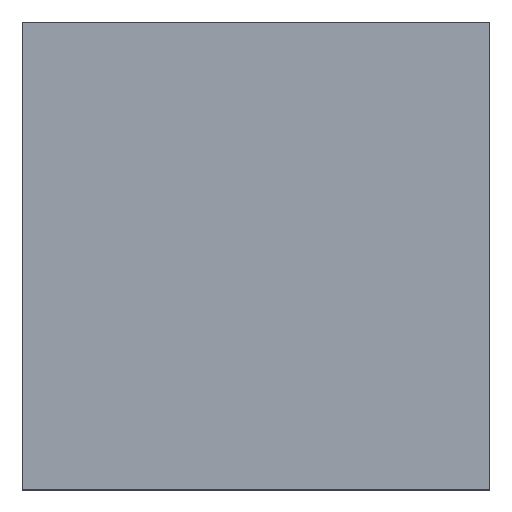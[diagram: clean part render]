
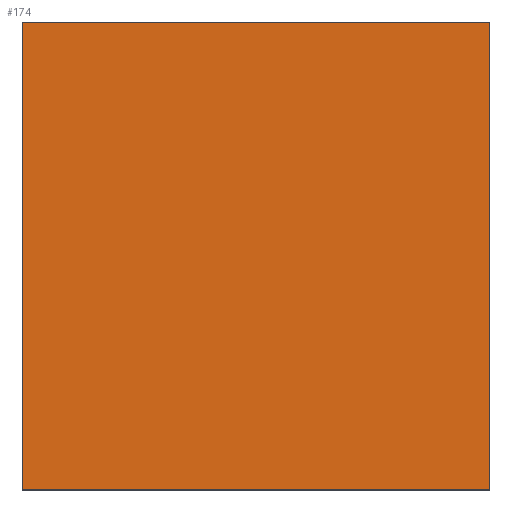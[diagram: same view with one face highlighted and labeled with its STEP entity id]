
A CAD part, top view. The second image highlights one B-rep face of the part: STEP entity #174.
In plain terms, the highlighted planar face has unit normal (0, 0, 1).
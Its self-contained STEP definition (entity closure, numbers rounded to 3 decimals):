
#143=FACE_OUTER_BOUND('',#370,.T.);
#174=ADVANCED_FACE('',(#143),#210,.F.);
#210=PLANE('',#716);
#241=LINE('',#973,#299);
#243=LINE('',#977,#301);
#245=LINE('',#981,#303);
#247=LINE('',#985,#305);
#299=VECTOR('',#778,1.);
#301=VECTOR('',#782,1.);
#303=VECTOR('',#786,1.);
#305=VECTOR('',#790,1.);
#370=EDGE_LOOP('',(#438,#439,#440,#441));
#438=ORIENTED_EDGE('',*,*,#639,.F.);
#439=ORIENTED_EDGE('',*,*,#645,.F.);
#440=ORIENTED_EDGE('',*,*,#643,.F.);
#441=ORIENTED_EDGE('',*,*,#641,.F.);
#582=VERTEX_POINT('',#972);
#583=VERTEX_POINT('',#974);
#584=VERTEX_POINT('',#978);
#585=VERTEX_POINT('',#982);
#639=EDGE_CURVE('',#582,#583,#241,.T.);
#641=EDGE_CURVE('',#583,#584,#243,.T.);
#643=EDGE_CURVE('',#584,#585,#245,.T.);
#645=EDGE_CURVE('',#585,#582,#247,.T.);
#716=AXIS2_PLACEMENT_3D('',#987,#793,#794);
#778=DIRECTION('',(-1.,0.,0.));
#782=DIRECTION('',(0.,1.,0.));
#786=DIRECTION('',(1.,0.,0.));
#790=DIRECTION('',(0.,-1.,0.));
#793=DIRECTION('',(0.,0.,-1.));
#794=DIRECTION('',(-1.,0.,0.));
#972=CARTESIAN_POINT('',(42.5,-42.5,30.));
#973=CARTESIAN_POINT('',(42.5,-42.5,30.));
#974=CARTESIAN_POINT('',(-42.5,-42.5,30.));
#977=CARTESIAN_POINT('',(-42.5,-42.5,30.));
#978=CARTESIAN_POINT('',(-42.5,42.5,30.));
#981=CARTESIAN_POINT('',(-42.5,42.5,30.));
#982=CARTESIAN_POINT('',(42.5,42.5,30.));
#985=CARTESIAN_POINT('',(42.5,42.5,30.));
#987=CARTESIAN_POINT('',(-42.5,-42.5,30.));
